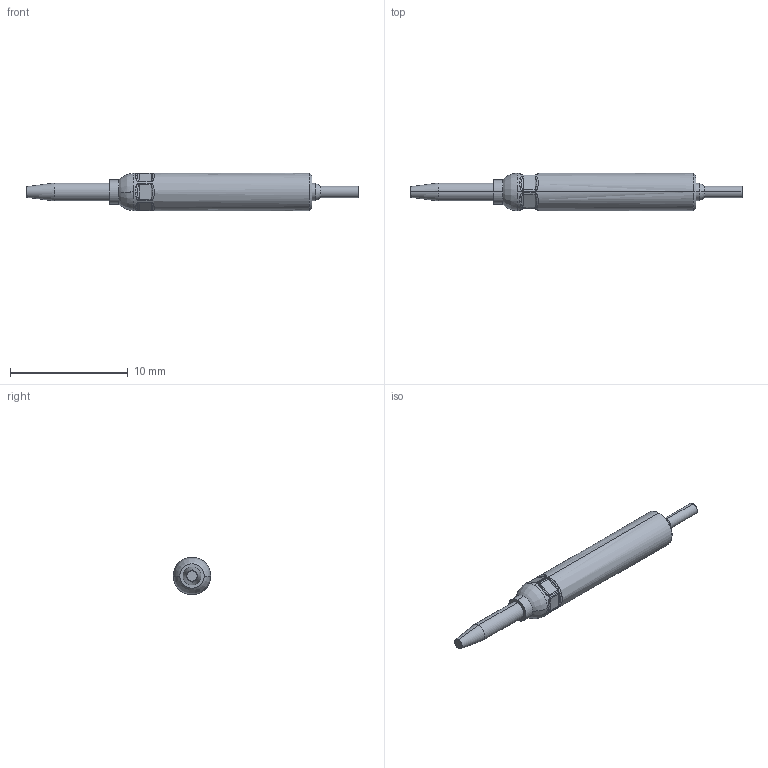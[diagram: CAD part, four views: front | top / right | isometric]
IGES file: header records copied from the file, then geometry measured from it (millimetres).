
Start section: SolidWorks IGES file using analytic representation for surfaces
Global section: file name: Z:\probe solid model mockups\Solidworks models\IGES Files\SSP-5C IGES files\SSP-5C RECD.IGS; native system: SolidWorks 2006 by SolidWorks Corporation; preprocessor: SolidWorks 2006 by SolidWorks Corporation; author: tsakatani; date: 080103.133204; units: inch
Bounding box: 28.19 x 3.17 x 3.17 mm (x, y, z)
Surface area: 221.4 mm2 (no closed solid volume)
Topology: 0 solids, 0 shells, 106 faces, 754 edges, 754 vertices
Faces by surface type: bspline 64, revolution 42
